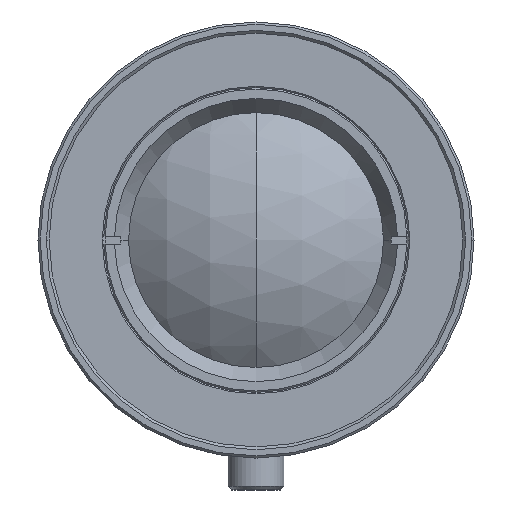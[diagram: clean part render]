
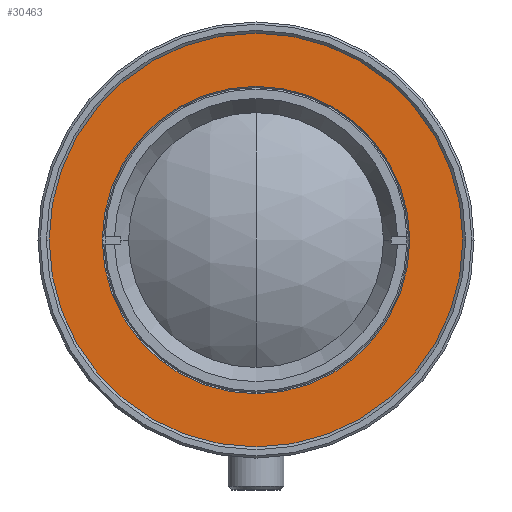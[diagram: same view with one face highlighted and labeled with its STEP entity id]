
A CAD part, front view. The second image highlights one B-rep face of the part: STEP entity #30463.
In plain terms, the highlighted planar face has unit normal (0, -1, 0).
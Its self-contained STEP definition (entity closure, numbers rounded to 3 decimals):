
#1403 = CIRCLE ( 'NONE', #4992, 13.75 ) ;
#2193 = AXIS2_PLACEMENT_3D ( 'NONE', #6144, #6098, #6049 ) ;
#2533 = DIRECTION ( 'NONE',  ( 1., 0., 0. ) ) ;
#2681 = PLANE ( 'NONE',  #10698 ) ;
#2848 = ORIENTED_EDGE ( 'NONE', *, *, #3151, .F. ) ;
#3151 = EDGE_CURVE ( 'NONE', #31975, #9953, #17695, .T. ) ;
#4447 = DIRECTION ( 'NONE',  ( 0., -1., 0. ) ) ;
#4722 = ORIENTED_EDGE ( 'NONE', *, *, #21485, .T. ) ;
#4992 = AXIS2_PLACEMENT_3D ( 'NONE', #39654, #21279, #2533 ) ;
#6049 = DIRECTION ( 'NONE',  ( 1., 0., 0. ) ) ;
#6098 = DIRECTION ( 'NONE',  ( 0., -1., 0. ) ) ;
#6144 = CARTESIAN_POINT ( 'NONE',  ( 0., -58.56, 0. ) ) ;
#8316 = EDGE_CURVE ( 'NONE', #12954, #22243, #27915, .T. ) ;
#9004 = CIRCLE ( 'NONE', #9552, 18.75 ) ;
#9552 = AXIS2_PLACEMENT_3D ( 'NONE', #23111, #4447, #26200 ) ;
#9953 = VERTEX_POINT ( 'NONE', #33607 ) ;
#10698 = AXIS2_PLACEMENT_3D ( 'NONE', #36682, #30637, #12135 ) ;
#12135 = DIRECTION ( 'NONE',  ( 1., 0., 0. ) ) ;
#12614 = FACE_OUTER_BOUND ( 'NONE', #18751, .T. ) ;
#12954 = VERTEX_POINT ( 'NONE', #38401 ) ;
#14648 = CARTESIAN_POINT ( 'NONE',  ( -18.75, -58.56, 0. ) ) ;
#16566 = AXIS2_PLACEMENT_3D ( 'NONE', #18729, #40226, #21857 ) ;
#17695 = CIRCLE ( 'NONE', #2193, 13.75 ) ;
#18729 = CARTESIAN_POINT ( 'NONE',  ( 0., -58.56, 0. ) ) ;
#18751 = EDGE_LOOP ( 'NONE', ( #25727, #4722 ) ) ;
#18773 = EDGE_CURVE ( 'NONE', #9953, #31975, #1403, .T. ) ;
#19982 = FACE_BOUND ( 'NONE', #25723, .T. ) ;
#21279 = DIRECTION ( 'NONE',  ( 0., -1., 0. ) ) ;
#21485 = EDGE_CURVE ( 'NONE', #22243, #12954, #9004, .T. ) ;
#21857 = DIRECTION ( 'NONE',  ( 1., 0., 0. ) ) ;
#22243 = VERTEX_POINT ( 'NONE', #14648 ) ;
#23111 = CARTESIAN_POINT ( 'NONE',  ( 0., -58.56, 0. ) ) ;
#25723 = EDGE_LOOP ( 'NONE', ( #32372, #2848 ) ) ;
#25727 = ORIENTED_EDGE ( 'NONE', *, *, #8316, .T. ) ;
#26200 = DIRECTION ( 'NONE',  ( 1., 0., 0. ) ) ;
#27915 = CIRCLE ( 'NONE', #16566, 18.75 ) ;
#30463 = ADVANCED_FACE ( 'NONE', ( #12614, #19982 ), #2681, .T. ) ;
#30637 = DIRECTION ( 'NONE',  ( 0., -1., 0. ) ) ;
#31975 = VERTEX_POINT ( 'NONE', #33166 ) ;
#32372 = ORIENTED_EDGE ( 'NONE', *, *, #18773, .F. ) ;
#33166 = CARTESIAN_POINT ( 'NONE',  ( -13.75, -58.56, 0. ) ) ;
#33607 = CARTESIAN_POINT ( 'NONE',  ( 13.75, -58.56, 0. ) ) ;
#36682 = CARTESIAN_POINT ( 'NONE',  ( 0., -58.56, 13.75 ) ) ;
#38401 = CARTESIAN_POINT ( 'NONE',  ( 18.75, -58.56, 0. ) ) ;
#39654 = CARTESIAN_POINT ( 'NONE',  ( 0., -58.56, 0. ) ) ;
#40226 = DIRECTION ( 'NONE',  ( 0., -1., 0. ) ) ;
